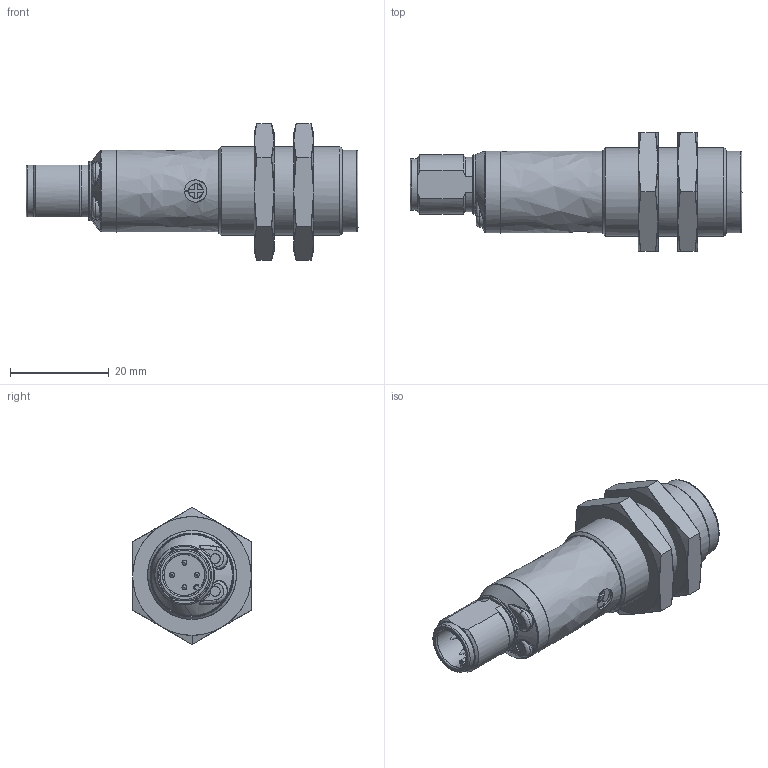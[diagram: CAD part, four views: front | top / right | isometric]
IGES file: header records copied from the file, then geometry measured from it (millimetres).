
Start section: C
Global section: file name: OR18.Rx-xWxP.9VO.igs; native system:  By UGS Corp.; preprocessor: XPlus GENERIC/IGES 3.0; author: Author; organization: Title; date: 20160608.144029; units: millimetre
Bounding box: 67.2 x 24 x 27.71 mm (x, y, z)
Surface area: 7118 mm2 (no closed solid volume)
Topology: 0 solids, 0 shells, 202 faces, 1062 edges, 1062 vertices
Faces by surface type: bspline 202
